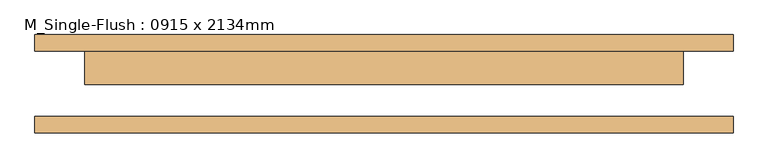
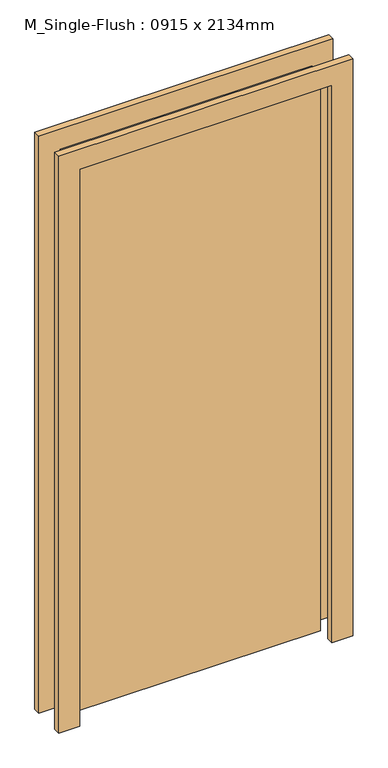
"""IFC4 building model written with IfcOpenShell, lengths in millimetres: door geometry, M_Single-Flush : 0915 x 2134mm."""

from ifc_helpers import new_model, si_unit, frame, origin, origin_with_axes, place, context, project, spatial, polyline, outline, extrude, source, transform, mapped, element, save


def m_single_flush_0915_x_2134mm_ba1cf13c(model_context):
    return source(origin(), model_context, "Body", "SweptSolid", [
        extrude(outline(polyline([(2210.0, -533.5), (0.0, -533.5), (0.0, -457.5), (2134.0, -457.5), (2134.0, 457.5), (0.0, 457.5), (0.0, 533.5), (2210.0, 533.5), (2210.0, -533.5)])), frame((0.0, 50.0, 0.0), z_axis=(0.0, 1.0, 0.0), x_axis=(0.0, 0.0, 1.0)), (0.0, 0.0, 1.0), 25.0),
        extrude(outline(polyline([(2210.0, 533.5), (2210.0, -533.5), (0.0, -533.5), (0.0, -457.5), (2134.0, -457.5), (2134.0, 457.5), (0.0, 457.5), (0.0, 533.5), (2210.0, 533.5)])), frame((0.0, -75.0, 0.0), z_axis=(0.0, 1.0, 0.0), x_axis=(0.0, 0.0, 1.0)), (0.0, 0.0, 1.0), 25.0),
        extrude(outline(polyline([(457.5, -1.0), (-457.5, -1.0), (-457.5, 50.0), (457.5, 50.0), (457.5, -1.0)])), origin_with_axes(), (0.0, 0.0, 1.0), 2134.0),
    ])


if __name__ == "__main__":
    model = new_model("IFC4")
    model_context = context("Model", 3, world=origin())
    ifc_project = project(units=[si_unit("LENGTHUNIT", "METRE", prefix="MILLI")], contexts=[model_context])
    site = spatial("IfcSite", under=ifc_project)
    building = spatial("IfcBuilding", under=site)
    placement = place(None, origin())
    m_single_flush_0915_x_2134mm_shape = m_single_flush_0915_x_2134mm_ba1cf13c(model_context)
    element("IfcDoor", 1, ObjectType="M_Single-Flush : 0915 x 2134mm", at=placement, inside=building, context=model_context, shape_type="MappedRepresentation", body=[
        mapped(m_single_flush_0915_x_2134mm_shape, transform((0.0, 0.0, 0.0), x_axis=(1.0, 0.0, 0.0), y_axis=(0.0, 1.0, 0.0), z_axis=(0.0, 0.0, 1.0))),
    ])
    save(model, "model.ifc")
